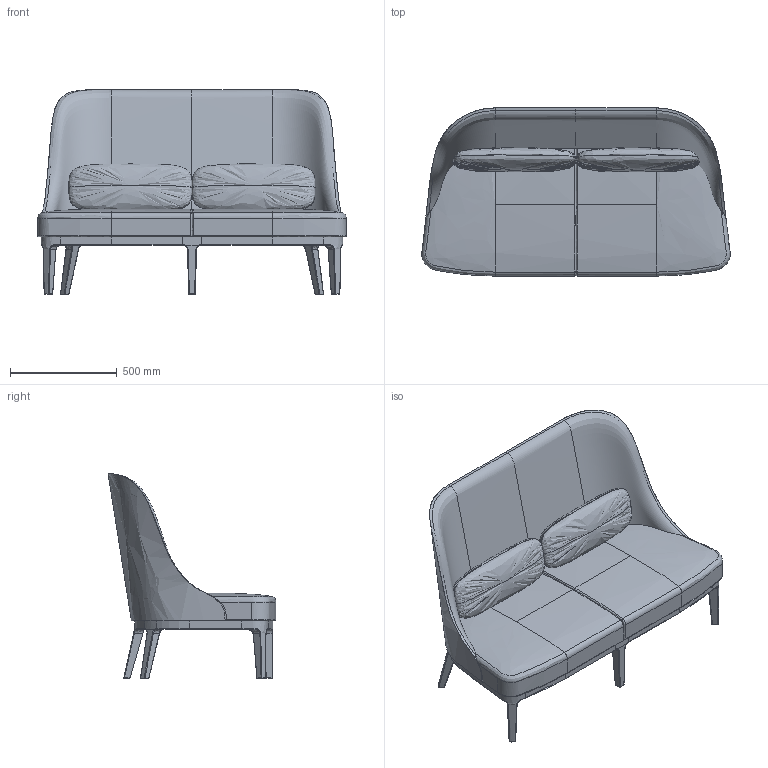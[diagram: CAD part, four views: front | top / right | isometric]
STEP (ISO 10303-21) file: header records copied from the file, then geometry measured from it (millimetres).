
FILE_DESCRIPTION(/* description */ (''),/* implementation_level */ '2;1');
FILE_NAME(/* name */ 'KINOSH~2',/* time_stamp */ '2019-07-19T15:00:37+09:00',/* author */ (''),/* organization */ (''),/* preprocessor_version */ 'ST-DEVELOPER v15',/* originating_system */ '',/* authorisation */ '');
FILE_SCHEMA (('AUTOMOTIVE_DESIGN'));
Length unit declared in the file: millimetre
Products named in the file (1): Document
Bounding box: 1446.6 x 787.57 x 960 mm (x, y, z)
Volume: 93758886.1 mm3; surface area: 8165299 mm2
Topology: 18 solids, 24 shells, 312 faces, 709 edges, 423 vertices
Faces by surface type: bspline 228, plane 84
Entity records: 90350 total; most frequent: CARTESIAN_POINT 86126, ORIENTED_EDGE 1374, EDGE_CURVE 695, VERTEX_POINT 423, B_SPLINE_CURVE_WITH_KNOTS 365, ADVANCED_FACE 312, FACE_OUTER_BOUND 312, EDGE_LOOP 312
